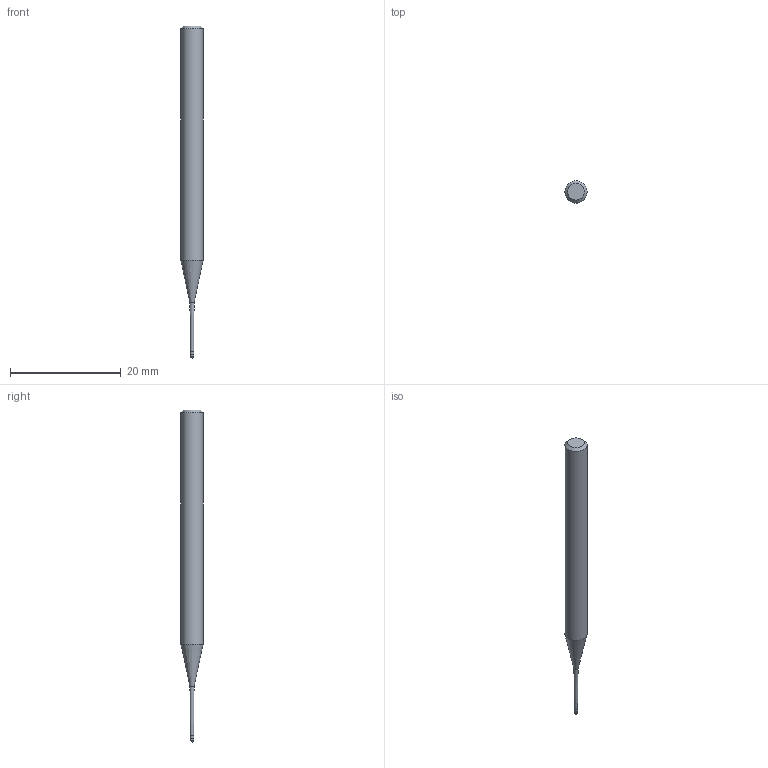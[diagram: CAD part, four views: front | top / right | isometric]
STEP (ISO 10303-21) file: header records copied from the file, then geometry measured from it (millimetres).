
FILE_DESCRIPTION((''),'2;1');
FILE_NAME('C:\Users\nsx150\AppData\Local\Temp\Mastercam 2021\SNAKH10GOD\TEMP.step','2021-10-21T13:31:23',(''),(''),'STEP Write','Mastercam 2021 ... CNC Software, Inc.','');
FILE_SCHEMA(('AUTOMOTIVE_DESIGN'));
Length unit declared in the file: millimetre
Products named in the file (1): None
Bounding box: 4 x 4 x 60 mm (x, y, z)
Volume: 573.4 mm3; surface area: 620.4 mm2
Topology: 2 solids, 2 shells, 10 faces, 16 edges, 9 vertices
Faces by surface type: plane 3, cylinder 3, cone 3, sphere 1
Full cylindrical faces by diameter (mm): 0.585 x1, 0.6 x1, 4 x1
Entity records: 232 total; most frequent: DIRECTION 40, CARTESIAN_POINT 28, AXIS2_PLACEMENT_3D 20, ORIENTED_EDGE 16, EDGE_LOOP 16, STYLED_ITEM 13, ADVANCED_FACE 10, FACE_BOUND 9
